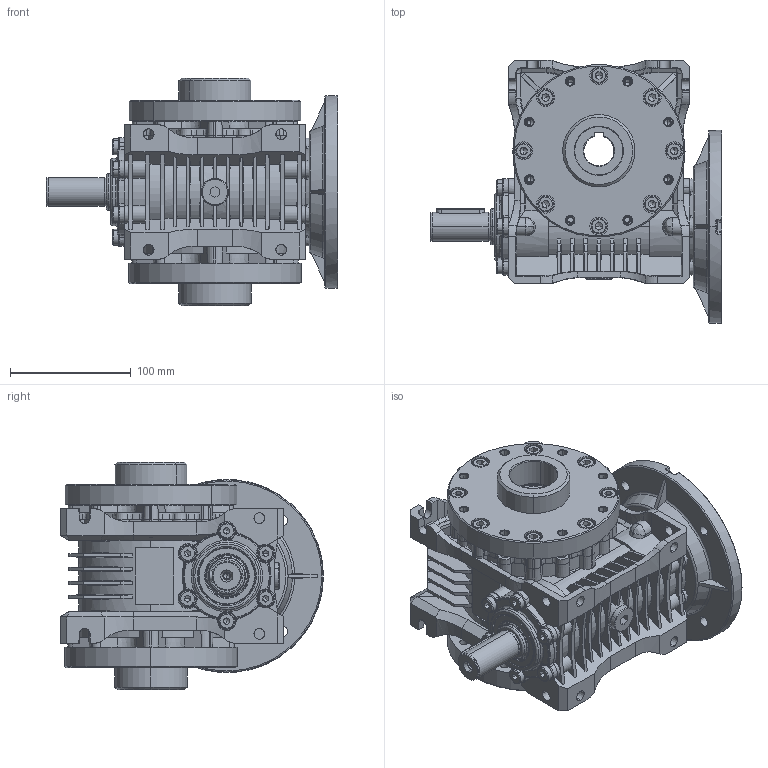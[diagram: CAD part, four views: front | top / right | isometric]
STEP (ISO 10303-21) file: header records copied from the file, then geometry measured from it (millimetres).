
FILE_DESCRIPTION (( 'STEP AP203' ), '1' );
FILE_NAME ('MRP-63_160-14-WBS-SO_2-3D.STEP', '2024-10-28T13:51:49', ( '' ), ( '' ), 'SwSTEP 2.0', 'SolidWorks 2022', '' );
FILE_SCHEMA (( 'CONFIG_CONTROL_DESIGN' ));
Length unit declared in the file: millimetre
Products named in the file (1): MRP-63_160-14-WBS-SO_2-3D
Bounding box: 242 x 218.21 x 189 mm (x, y, z)
Volume: 2652791 mm3; surface area: 437340.6 mm2
Topology: 1 solids, 89 shells, 3852 faces, 9571 edges, 5920 vertices
Faces by surface type: plane 1331, cone 1036, cylinder 652, bspline 400, torus 395, sphere 38
Entity records: 127830 total; most frequent: CARTESIAN_POINT 39874, ORIENTED_EDGE 18886, DIRECTION 18013, EDGE_CURVE 9443, AXIS2_PLACEMENT_3D 7120, VERTEX_POINT 5920, EDGE_LOOP 4127, FACE_OUTER_BOUND 3852
